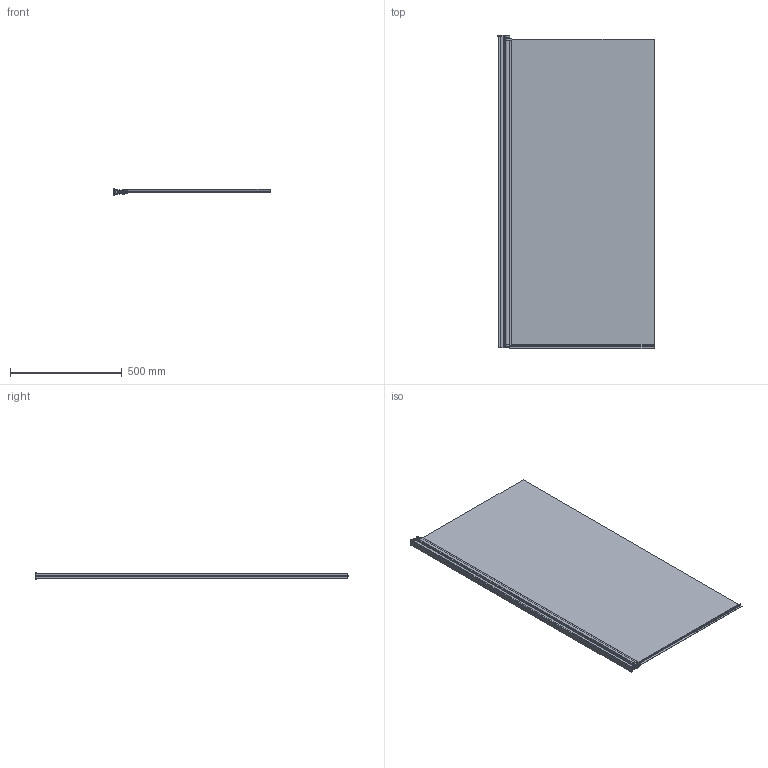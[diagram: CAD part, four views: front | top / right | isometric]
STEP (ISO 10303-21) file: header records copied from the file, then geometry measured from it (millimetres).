
FILE_DESCRIPTION(/* description */ (''),/* implementation_level */ '2;1');
FILE_NAME(/* name */ 'c:\worker\convert-fusion-oct-2018\tmp\job-1\25\output\files\eda623f9-b23f-43c2-a0df-740940fc0b90\62fc313f-9699-401d-8ed1-a0fcfd24b05f.stp',/* time_stamp */ '2018-11-23T11:24:52+00:00',/* author */ (''),/* organization */ (''),/* preprocessor_version */ 'ST-DEVELOPER v17.2',/* originating_system */ 'Autodesk Translation Framework v7.6.0.251',/* authorisation */ '');
FILE_SCHEMA (('AUTOMOTIVE_DESIGN { 1 0 10303 214 3 1 1 }'));
Length unit declared in the file: millimetre
Products named in the file (1): !Kenton MP75
Bounding box: 699.04 x 1403.26 x 27.93 mm (x, y, z)
Volume: 5205903.8 mm3; surface area: 2332772 mm2
Topology: 11 solids, 11 shells, 397 faces, 1029 edges, 660 vertices
Faces by surface type: plane 177, cylinder 139, bspline 32, torus 22, cone 19, sphere 8
Full cylindrical faces by diameter (mm): 2 x1, 2.109 x1, 4 x2, 4.509 x1, 8 x2, 8.1 x2
Entity records: 14444 total; most frequent: CARTESIAN_POINT 4595, DIRECTION 2089, ORIENTED_EDGE 2050, EDGE_CURVE 1025, AXIS2_PLACEMENT_3D 766, VERTEX_POINT 660, LINE 557, VECTOR 557
